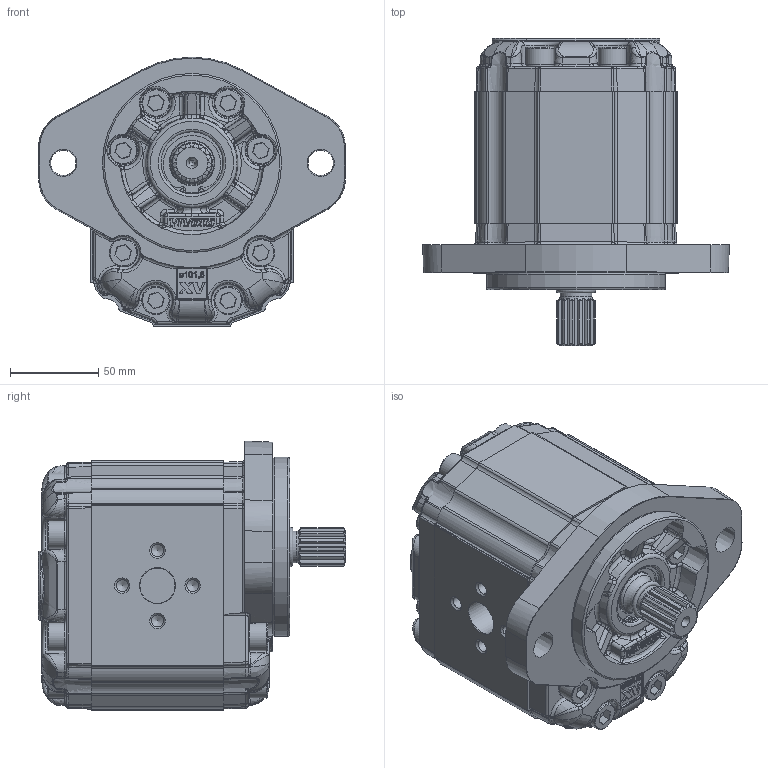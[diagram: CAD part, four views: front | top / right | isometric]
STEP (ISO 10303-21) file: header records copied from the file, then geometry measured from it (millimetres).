
FILE_DESCRIPTION(/* description */ ('Unknown'),/* implementation_level */ '2;1');
FILE_NAME(/* name */ 'X3U7232IAAA',/* time_stamp */ '2021-04-26T09:54:49+02:00',/* author */ ('Unknown'),/* organization */ ('Unknown'),/* preprocessor_version */ 'ST-DEVELOPER v16.7',/* originating_system */ 'Solid Edge',/* authorisation */ 'Unknown');
FILE_SCHEMA (('AUTOMOTIVE_DESIGN {1 0 10303 214 3 1 1}'));
Products named in the file (5): X3U7232IAAA; X3U32; 3I; X3AAH75; XU331-A
Assembly tree (4 placements, depth 2):
  X3U7232IAAA
    X3U32
    3I
    X3AAH75
    XU331-A
Bounding box: 174 x 174.2 x 153 mm (x, y, z)
Volume: 1920321.9 mm3; surface area: 200025.9 mm2
Topology: 4 solids, 21 shells, 3065 faces, 7898 edges, 4997 vertices
Faces by surface type: bspline 1317, plane 873, cylinder 654, cone 106, torus 99, sphere 16
Full cylindrical faces by diameter (mm): 2 x2, 6.8 x8, 10 x16, 15.8 x16, 16 x16, 18 x2, 20 x2, 24.98 x1, 25.5 x1, 26.8 x1, 29.425 x1, 31.42 x1, 33.304 x1, 34.7 x1, 35 x2, 35.2 x1, 37 x1, 101.6 x1
Entity records: 162889 total; most frequent: CARTESIAN_POINT 82483, ORIENTED_EDGE 15328, EDGE_CURVE 7664, DIRECTION 6742, B_SPLINE_CURVE_WITH_KNOTS 4985, VERTEX_POINT 4931, FACE_BOUND 3367, EDGE_LOOP 3358
